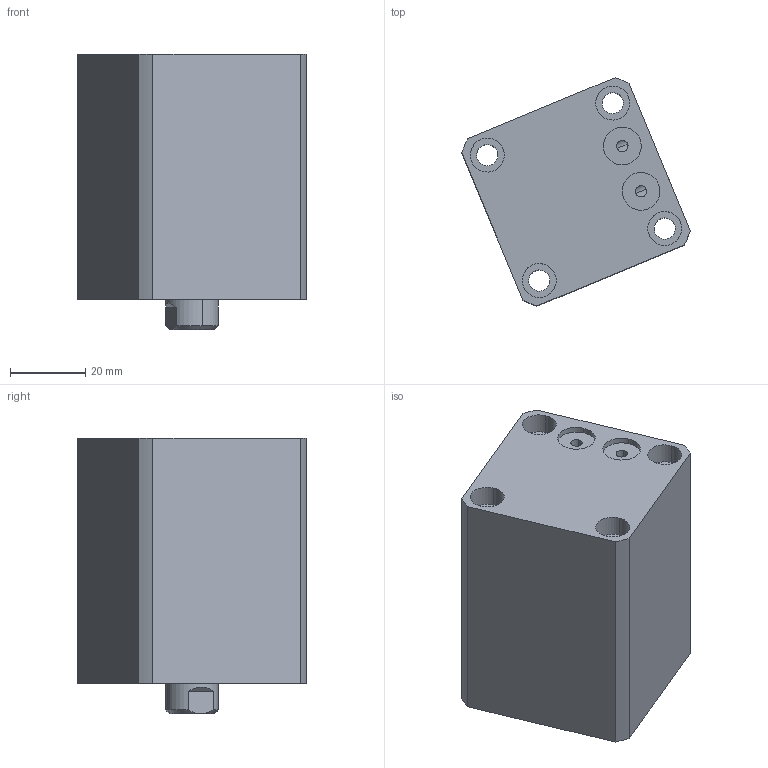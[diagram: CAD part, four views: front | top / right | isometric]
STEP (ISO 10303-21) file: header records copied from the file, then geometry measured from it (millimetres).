
FILE_DESCRIPTION (( 'STEP AP214' ), '1' );
FILE_NAME ('chtb-sdmb25x20n_asm.STEP', '2018-05-24T01:23:53', ( 'Windows' ), ( 'Microsoft' ), 'SwSTEP 2.0', 'SolidWorks 2015', '' );
FILE_SCHEMA (( 'AUTOMOTIVE_DESIGN' ));
Length unit declared in the file: millimetre
Products named in the file (4): CHTB-SDMB25X20NHSG; CHTB-SDMB25X20NBT; CHTB-25QG; chtb-sdmb25x20n_asm
Assembly tree (3 placements, depth 2):
  chtb-sdmb25x20n_asm
    CHTB-25QG
    CHTB-SDMB25X20NBT
    CHTB-SDMB25X20NHSG
Bounding box: 60.55 x 60.55 x 73 mm (x, y, z)
Volume: 131719.2 mm3; surface area: 37562.3 mm2
Topology: 3 solids, 3 shells, 142 faces, 379 edges, 257 vertices
Faces by surface type: cylinder 89, plane 34, bspline 10, cone 9
Entity records: 8024 total; most frequent: CARTESIAN_POINT 4397, ORIENTED_EDGE 746, DIRECTION 661, EDGE_CURVE 373, AXIS2_PLACEMENT_3D 272, VERTEX_POINT 257, EDGE_LOOP 180, ADVANCED_FACE 142
